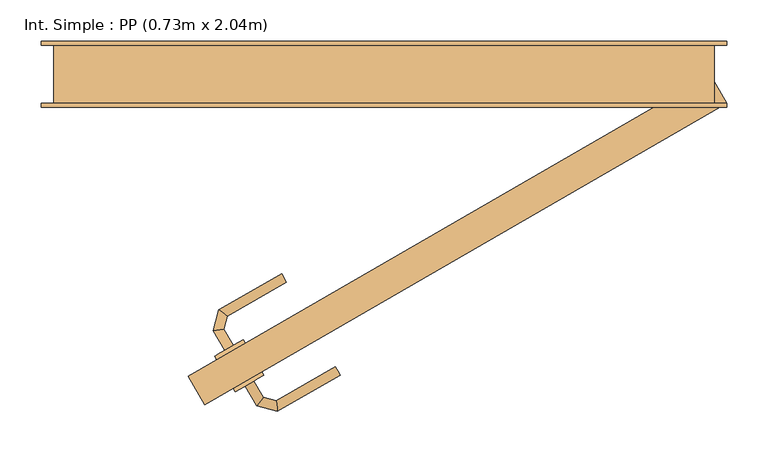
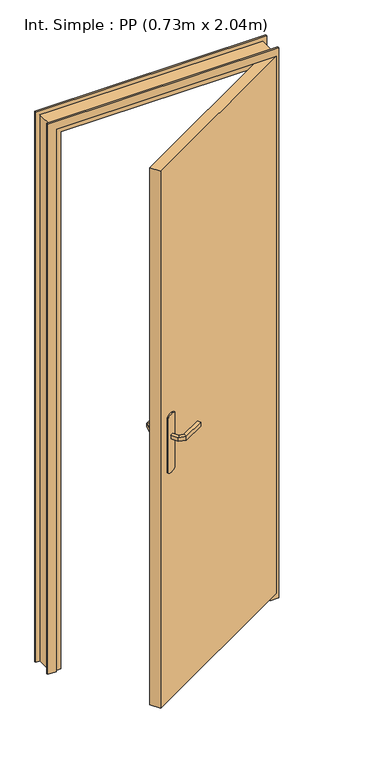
"""IFC4 building model written with IfcOpenShell, lengths in millimetres: door geometry, Int. Simple : PP (0.73m x 2.04m)."""

from ifc_helpers import new_model, si_unit, point, frame, frame_2d, origin, place, context, project, spatial, polyline, circle_curve, ellipse_curve, trimmed, segment, composite_curve, outline, extrude, faceted_brep, source, transform, mapped, element, save
from ifc_brep_helpers import plane_surface, cylinder_surface, advanced_brep


def int_simple_pp_0_73m_x_2_04m_0aa180c3(model_context):
    return source(origin(), model_context, "Body", "SolidModel", [
        extrude(outline(composite_curve([segment(trimmed(circle_curve(frame_2d((0.0, -40.0)), 40.0), [point((-34.6410162, -60.0))], [point((-34.6410162, -20.0))], False, "CARTESIAN"), True, "CONTINUOUS"), segment(polyline([(-34.6410162, -20.0), (175.3589838, -20.0)]), True, "CONTINUOUS"), segment(trimmed(circle_curve(frame_2d((140.7179676, -40.0)), 40.0), [point((175.3589838, -20.0))], [point((175.3589838, -60.0))], False, "CARTESIAN"), True, "CONTINUOUS"), segment(polyline([(175.3589838, -60.0), (-34.6410162, -60.0)]), True, "CONTINUOUS")], self_intersect=False)), frame((-163.0960044, -354.330127, 924.6410162), z_axis=(-0.5, 0.8660254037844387, 0.0), x_axis=(0.0, 0.0, 1.0)), (0.0, 0.0, 1.0), 5.0),
        extrude(outline(composite_curve([segment(trimmed(circle_curve(frame_2d((0.0, -40.0)), 40.0), [point((34.6410162, -20.0))], [point((34.6410162, -60.0))], False, "CARTESIAN"), True, "CONTINUOUS"), segment(polyline([(34.6410162, -60.0), (-175.3589838, -60.0)]), True, "CONTINUOUS"), segment(trimmed(circle_curve(frame_2d((-140.7179676, -40.0)), 40.0), [point((-175.3589838, -60.0))], [point((-175.3589838, -20.0))], False, "CARTESIAN"), True, "CONTINUOUS"), segment(polyline([(-175.3589838, -20.0), (34.6410162, -20.0)]), True, "CONTINUOUS")], self_intersect=False)), frame((-185.5960044, -315.3589838, 1065.3589838), z_axis=(-0.5, 0.8660254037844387, 0.0), x_axis=(0.0, 0.0, 1.0)), (0.0, 0.0, 1.0), 5.0),
        advanced_brep(
        [(-202.933173, -377.330127, 1027.0), (-192.5408681, -371.330127, 1027.0), (-192.5408681, -371.330127, 1013.0), (-202.933173, -377.330127, 1013.0), (-189.1076976, -401.2765528, 1027.0), (-181.2006741, -390.9719192, 1027.0), (-181.2006741, -390.9719192, 1013.0), (-189.1076976, -401.2765528, 1013.0), (-164.0039619, -408.0030785, 1027.0), (-165.6993283, -395.1254922, 1027.0), (-165.6993283, -395.1254922, 1013.0), (-164.0039619, -408.0030785, 1013.0), (-88.1042566, -364.1823632, 1027.0), (-88.1042566, -364.1823632, 1013.0), (-94.1042566, -353.7900583, 1013.0), (-94.1042566, -353.7900583, 1027.0)],
        [
            (0, 1, circle_curve(frame((-197.7370205, -374.330127, 1006.9542278), z_axis=(-0.5000000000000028, 0.866025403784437, 0.0), x_axis=(0.866025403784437, 0.5000000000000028, 0.0)), 20.9244589)),
            (1, 2),
            (2, 3, circle_curve(frame((-197.7370205, -374.330127, 1033.0457722), z_axis=(-0.5000000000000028, 0.866025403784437, 0.0), x_axis=(0.866025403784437, 0.5000000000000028, 0.0)), 20.9244589)),
            (3, 0),
            (0, 4),
            (4, 5, ellipse_curve(frame((-185.1541859, -396.124236, 1006.9542278), z_axis=(-0.7933533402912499, 0.6087614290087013, 0.0), x_axis=(0.6087614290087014, 0.7933533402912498, 0.0)), 22.6484711, 20.9244589)),
            (5, 1),
            (5, 6),
            (6, 2),
            (6, 7, ellipse_curve(frame((-185.1541859, -396.124236, 1033.0457722), z_axis=(-0.7933533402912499, 0.6087614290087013, 0.0), x_axis=(0.6087614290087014, 0.7933533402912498, 0.0)), 22.6484711, 20.9244589)),
            (7, 3),
            (7, 4),
            (4, 8),
            (8, 9, ellipse_curve(frame((-164.8516451, -401.5642854, 1006.9542278), z_axis=(-0.9914448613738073, -0.13052619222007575, 0.0), x_axis=(-0.13052619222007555, 0.9914448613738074, 0.0)), 22.6484711, 20.9244589)),
            (9, 5),
            (9, 10),
            (10, 6),
            (10, 11, ellipse_curve(frame((-164.8516451, -401.5642854, 1033.0457722), z_axis=(-0.9914448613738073, -0.13052619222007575, 0.0), x_axis=(-0.13052619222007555, 0.9914448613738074, 0.0)), 22.6484711, 20.9244589)),
            (11, 7),
            (11, 8),
            (12, 13),
            (13, 14, circle_curve(frame((-91.1042566, -358.9862107, 1033.0457722), z_axis=(0.8660254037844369, 0.500000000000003, 0.0), x_axis=(-0.500000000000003, 0.8660254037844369, 0.0)), 20.9244589)),
            (14, 15),
            (15, 12, circle_curve(frame((-91.1042566, -358.9862107, 1006.9542278), z_axis=(0.8660254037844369, 0.500000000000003, 0.0), x_axis=(-0.500000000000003, 0.8660254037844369, 0.0)), 20.9244589)),
            (8, 12),
            (15, 9),
            (14, 10),
            (13, 11),
        ],
        [
            plane_surface(frame((-205.7213802, -378.9398992, 1020.0), z_axis=(-0.5000000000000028, 0.866025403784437, 0.0), x_axis=(0.0, 0.0, -1.0))),
            cylinder_surface(frame((-197.7370205, -374.330127, 1006.9542278), z_axis=(-0.5000000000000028, 0.866025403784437, 0.0), x_axis=(0.866025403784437, 0.5000000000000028, 0.0)), 20.9244589),
            plane_surface(frame((-192.5408681, -371.330127, 1027.0), z_axis=(0.866025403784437, 0.5000000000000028, 0.0), x_axis=(0.5000000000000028, -0.866025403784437, 0.0))),
            cylinder_surface(frame((-197.7370205, -374.330127, 1033.0457722), z_axis=(-0.5000000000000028, 0.866025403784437, 0.0), x_axis=(0.866025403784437, 0.5000000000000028, 0.0)), 20.9244589),
            plane_surface(frame((-202.933173, -377.330127, 1013.0), z_axis=(-0.866025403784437, -0.5000000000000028, 0.0), x_axis=(0.5000000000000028, -0.866025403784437, 0.0))),
            cylinder_surface(frame((-185.1541859, -396.124236, 1006.9542278), z_axis=(-0.96592582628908, 0.25881904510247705, 0.0), x_axis=(0.25881904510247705, 0.96592582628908, 0.0)), 20.9244589),
            plane_surface(frame((-181.2006741, -390.9719192, 1027.0), z_axis=(0.258819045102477, 0.96592582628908, 0.0), x_axis=(0.96592582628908, -0.258819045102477, 0.0))),
            cylinder_surface(frame((-185.1541859, -396.124236, 1033.0457722), z_axis=(-0.96592582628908, 0.25881904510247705, 0.0), x_axis=(0.25881904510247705, 0.96592582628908, 0.0)), 20.9244589),
            plane_surface(frame((-189.1076976, -401.2765528, 1013.0), z_axis=(-0.258819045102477, -0.96592582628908, 0.0), x_axis=(0.96592582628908, -0.258819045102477, 0.0))),
            plane_surface(frame((-91.1042566, -358.9862107, 1010.7804555), z_axis=(0.866025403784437, 0.5000000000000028, 0.0), x_axis=(-0.5000000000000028, 0.866025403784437, 0.0))),
            cylinder_surface(frame((-164.8516451, -401.5642854, 1006.9542278), z_axis=(-0.8660254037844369, -0.500000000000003, 0.0), x_axis=(-0.500000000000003, 0.8660254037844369, 0.0)), 20.9244589),
            plane_surface(frame((-165.6993283, -395.1254922, 1027.0), z_axis=(-0.5000000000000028, 0.866025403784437, 0.0), x_axis=(0.866025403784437, 0.5000000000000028, 0.0))),
            cylinder_surface(frame((-164.8516451, -401.5642854, 1033.0457722), z_axis=(-0.8660254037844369, -0.500000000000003, 0.0), x_axis=(-0.500000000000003, 0.8660254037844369, 0.0)), 20.9244589),
            plane_surface(frame((-164.0039619, -408.0030785, 1013.0), z_axis=(0.5000000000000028, -0.866025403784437, 0.0), x_axis=(0.866025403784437, 0.5000000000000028, 0.0))),
        ],
        [
            (0, [[1, 2, 3, 4]]),
            (1, [[-1, 5, 6, 7]]),
            (2, [[-2, -7, 8, 9]]),
            (3, [[-3, -9, 10, 11]]),
            (4, [[-4, -11, 12, -5]]),
            (5, [[-6, 13, 14, 15]]),
            (6, [[-8, -15, 16, 17]]),
            (7, [[-10, -17, 18, 19]]),
            (8, [[-12, -19, 20, -13]]),
            (9, [[21, 22, 23, 24]]),
            (10, [[-14, 25, -24, 26]]),
            (11, [[-16, -26, -23, 27]]),
            (12, [[-18, -27, -22, 28]]),
            (13, [[-20, -28, -21, -25]]),
        ],
    ),
        advanced_brep(
        [(-217.5408681, -328.0288568, 1013.0), (-217.5408681, -328.0288568, 1027.0), (-227.933173, -334.0288568, 1027.0), (-227.933173, -334.0288568, 1013.0), (-228.7834704, -308.5560985, 1013.0), (-228.7834704, -308.5560985, 1027.0), (-241.6610566, -310.2514649, 1027.0), (-241.6610566, -310.2514649, 1013.0), (-224.5795656, -292.8669124, 1013.0), (-224.5795656, -292.8669124, 1027.0), (-234.8841992, -284.9598889, 1027.0), (-234.8841992, -284.9598889, 1013.0), (-153.0800733, -251.5866612, 1013.0), (-159.0800733, -241.1943564, 1013.0), (-159.0800733, -241.1943564, 1027.0), (-153.0800733, -251.5866612, 1027.0)],
        [
            (0, 1),
            (1, 2, circle_curve(frame((-222.7370205, -331.0288568, 1006.9542278), z_axis=(0.5000000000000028, -0.866025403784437, 0.0), x_axis=(-0.866025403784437, -0.5000000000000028, 0.0)), 20.9244589)),
            (2, 3),
            (3, 0, circle_curve(frame((-222.7370205, -331.0288568, 1033.0457722), z_axis=(0.5000000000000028, -0.866025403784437, 0.0), x_axis=(-0.866025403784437, -0.5000000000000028, 0.0)), 20.9244589)),
            (0, 4),
            (4, 5),
            (5, 1),
            (5, 6, ellipse_curve(frame((-235.2222635, -309.4037817, 1006.9542278), z_axis=(0.13052619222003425, -0.9914448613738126, 0.0), x_axis=(0.9914448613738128, 0.13052619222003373, 0.0)), 22.6484711, 20.9244589)),
            (6, 2),
            (6, 7),
            (7, 3),
            (7, 4, ellipse_curve(frame((-235.2222635, -309.4037817, 1033.0457722), z_axis=(0.13052619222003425, -0.9914448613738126, 0.0), x_axis=(0.9914448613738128, 0.13052619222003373, 0.0)), 22.6484711, 20.9244589)),
            (4, 8),
            (8, 9),
            (9, 5),
            (9, 10, ellipse_curve(frame((-229.7318824, -288.9134007, 1006.9542278), z_axis=(-0.6087614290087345, -0.7933533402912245, 0.0), x_axis=(0.7933533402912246, -0.6087614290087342, 0.0)), 22.6484711, 20.9244589)),
            (10, 6),
            (10, 11),
            (11, 7),
            (11, 8, ellipse_curve(frame((-229.7318824, -288.9134007, 1033.0457722), z_axis=(-0.6087614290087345, -0.7933533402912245, 0.0), x_axis=(0.7933533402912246, -0.6087614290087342, 0.0)), 22.6484711, 20.9244589)),
            (12, 13, circle_curve(frame((-156.0800733, -246.3905088, 1033.0457722), z_axis=(0.866025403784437, 0.5000000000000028, 0.0), x_axis=(-0.5000000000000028, 0.866025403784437, 0.0)), 20.9244589)),
            (13, 14),
            (14, 15, circle_curve(frame((-156.0800733, -246.3905088, 1006.9542278), z_axis=(0.866025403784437, 0.5000000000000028, 0.0), x_axis=(-0.5000000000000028, 0.866025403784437, 0.0)), 20.9244589)),
            (15, 12),
            (8, 12),
            (15, 9),
            (14, 10),
            (13, 11),
        ],
        [
            plane_surface(frame((-230.7213802, -335.6386291, 1020.0), z_axis=(0.5000000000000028, -0.866025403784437, 0.0), x_axis=(0.0, 0.0, 1.0))),
            plane_surface(frame((-217.5408681, -328.0288568, 1013.0), z_axis=(0.866025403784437, 0.5000000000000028, 0.0), x_axis=(-0.5000000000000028, 0.866025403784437, 0.0))),
            cylinder_surface(frame((-222.7370205, -331.0288568, 1006.9542278), z_axis=(0.5000000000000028, -0.866025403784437, 0.0), x_axis=(-0.866025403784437, -0.5000000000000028, 0.0)), 20.9244589),
            plane_surface(frame((-227.933173, -334.0288568, 1027.0), z_axis=(-0.866025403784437, -0.5000000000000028, 0.0), x_axis=(-0.5000000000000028, 0.866025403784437, 0.0))),
            cylinder_surface(frame((-222.7370205, -331.0288568, 1033.0457722), z_axis=(0.5000000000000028, -0.866025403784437, 0.0), x_axis=(-0.866025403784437, -0.5000000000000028, 0.0)), 20.9244589),
            plane_surface(frame((-228.7834704, -308.5560985, 1013.0), z_axis=(0.9659258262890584, -0.2588190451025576, 0.0), x_axis=(0.2588190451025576, 0.9659258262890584, 0.0))),
            cylinder_surface(frame((-235.2222635, -309.4037817, 1006.9542278), z_axis=(-0.2588190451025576, -0.9659258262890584, 0.0), x_axis=(-0.9659258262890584, 0.2588190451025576, 0.0)), 20.9244589),
            plane_surface(frame((-241.6610566, -310.2514649, 1027.0), z_axis=(-0.9659258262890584, 0.25881904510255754, 0.0), x_axis=(0.25881904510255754, 0.9659258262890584, 0.0))),
            cylinder_surface(frame((-235.2222635, -309.4037817, 1033.0457722), z_axis=(-0.2588190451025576, -0.9659258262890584, 0.0), x_axis=(-0.9659258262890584, 0.2588190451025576, 0.0)), 20.9244589),
            plane_surface(frame((-156.0800733, -246.3905088, 1010.7804555), z_axis=(0.866025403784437, 0.5000000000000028, 0.0), x_axis=(-0.5000000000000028, 0.866025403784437, 0.0))),
            plane_surface(frame((-224.5795656, -292.8669124, 1013.0), z_axis=(0.5000000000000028, -0.866025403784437, 0.0), x_axis=(0.866025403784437, 0.5000000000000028, 0.0))),
            cylinder_surface(frame((-229.7318824, -288.9134007, 1006.9542278), z_axis=(-0.866025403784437, -0.5000000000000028, 0.0), x_axis=(-0.5000000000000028, 0.866025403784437, 0.0)), 20.9244589),
            plane_surface(frame((-234.8841992, -284.9598889, 1027.0), z_axis=(-0.5000000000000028, 0.866025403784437, 0.0), x_axis=(0.866025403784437, 0.5000000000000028, 0.0))),
            cylinder_surface(frame((-229.7318824, -288.9134007, 1033.0457722), z_axis=(-0.866025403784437, -0.5000000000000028, 0.0), x_axis=(-0.5000000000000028, 0.866025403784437, 0.0)), 20.9244589),
        ],
        [
            (0, [[1, 2, 3, 4]]),
            (1, [[-1, 5, 6, 7]]),
            (2, [[-2, -7, 8, 9]]),
            (3, [[-3, -9, 10, 11]]),
            (4, [[-4, -11, 12, -5]]),
            (5, [[-6, 13, 14, 15]]),
            (6, [[-8, -15, 16, 17]]),
            (7, [[-10, -17, 18, 19]]),
            (8, [[-12, -19, 20, -13]]),
            (9, [[21, 22, 23, 24]]),
            (10, [[-14, 25, -24, 26]]),
            (11, [[-16, -26, -23, 27]]),
            (12, [[-18, -27, -22, 28]]),
            (13, [[-20, -28, -21, -25]]),
        ],
    ),
        extrude(outline(polyline([(-272.1985448, -365.3589838), (360.0, -0.3589838), (380.0, -35.0), (-252.1985448, -400.0), (-272.1985448, -365.3589838)])), frame((0.0, 0.0, 20.0), z_axis=(0.0, 0.0, 1.0), x_axis=(1.0, 0.0, 0.0)), (0.0, 0.0, 1.0), 2040.0),
        faceted_brep([(-435.0, -35.0, 0.0), (-435.0, 35.0, 0.0), (-385.0, 35.0, 0.0), (-385.0, 5.0, 0.0), (-400.0, 5.0, 0.0), (-400.0, -35.0, 0.0), (-435.0, -35.0, 2075.0), (-435.0, 35.0, 2075.0), (365.0, 35.0, 2075.0), (365.0, 35.0, 0.0), (315.0, 35.0, 0.0), (315.0, 35.0, 2025.0), (-385.0, 35.0, 2025.0), (-385.0, 5.0, 2025.0), (315.0, 5.0, 2025.0), (315.0, 5.0, 0.0), (330.0, 5.0, 0.0), (330.0, 5.0, 2040.0), (-400.0, 5.0, 2040.0), (-400.0, -35.0, 2040.0), (330.0, -35.0, 2040.0), (330.0, -35.0, 0.0), (365.0, -35.0, 0.0), (365.0, -35.0, 2075.0)], [[[0, 1, 2, 3, 4, 5]], [[1, 0, 6, 7]], [[2, 1, 7, 8, 9, 10, 11, 12]], [[3, 2, 12, 13]], [[4, 3, 13, 14, 15, 16, 17, 18]], [[5, 4, 18, 19]], [[0, 5, 19, 20, 21, 22, 23, 6]], [[8, 23, 22, 9]], [[22, 21, 16, 15, 10, 9]], [[14, 11, 10, 15]], [[20, 17, 16, 21]], [[7, 6, 23, 8]], [[13, 12, 11, 14]], [[19, 18, 17, 20]]]),
        extrude(outline(polyline([(0.0, -450.0), (0.0, -420.0), (2060.0, -420.0), (2060.0, 350.0), (0.0, 350.0), (0.0, 380.0), (2090.0, 380.0), (2090.0, -450.0), (0.0, -450.0)])), frame((0.0, -40.0, 0.0), z_axis=(0.0, 1.0, 0.0), x_axis=(0.0, 0.0, 1.0)), (0.0, 0.0, 1.0), 5.0),
        extrude(outline(polyline([(0.0, -450.0), (0.0, -420.0), (2060.0, -420.0), (2060.0, 350.0), (0.0, 350.0), (0.0, 380.0), (2090.0, 380.0), (2090.0, -450.0), (0.0, -450.0)])), frame((0.0, 35.0, 0.0), z_axis=(0.0, 1.0, 0.0), x_axis=(0.0, 0.0, 1.0)), (0.0, 0.0, 1.0), 5.0),
    ])


if __name__ == "__main__":
    model = new_model("IFC4")
    model_context = context("Model", 3, world=origin())
    ifc_project = project(units=[si_unit("LENGTHUNIT", "METRE", prefix="MILLI")], contexts=[model_context])
    site = spatial("IfcSite", under=ifc_project)
    building = spatial("IfcBuilding", under=site)
    placement = place(None, origin())
    int_simple_pp_0_73m_x_2_04m_shape = int_simple_pp_0_73m_x_2_04m_0aa180c3(model_context)
    element("IfcDoor", 1, ObjectType="Int. Simple : PP (0.73m x 2.04m)", at=placement, inside=building, context=model_context, shape_type="MappedRepresentation", body=[
        mapped(int_simple_pp_0_73m_x_2_04m_shape, transform((0.0, 0.0, 0.0), x_axis=(1.0, 0.0, 0.0), y_axis=(0.0, 1.0, 0.0), z_axis=(0.0, 0.0, 1.0))),
    ])
    save(model, "model.ifc")
